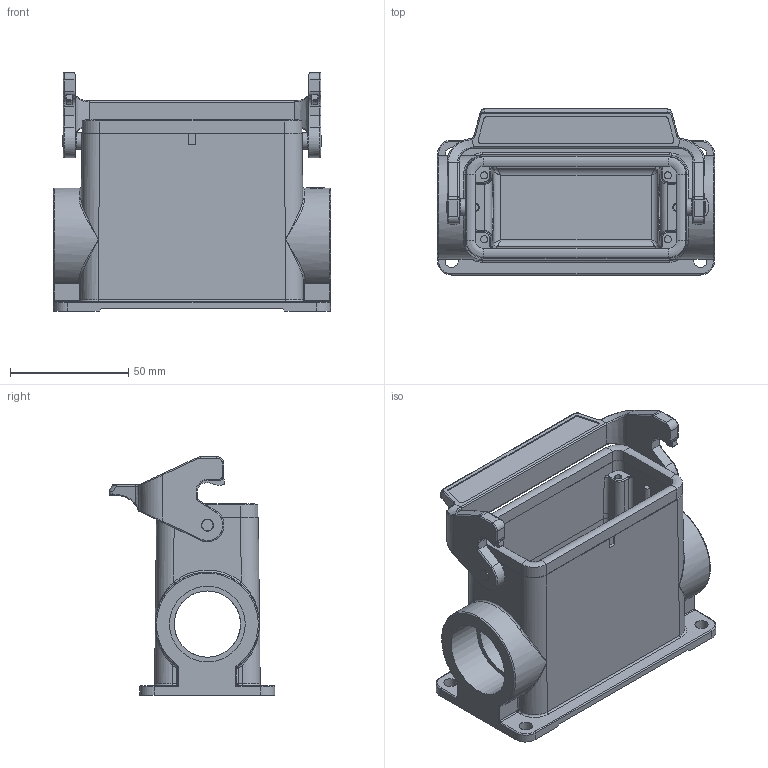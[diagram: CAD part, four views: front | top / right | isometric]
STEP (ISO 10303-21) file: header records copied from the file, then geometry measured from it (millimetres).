
FILE_DESCRIPTION(/* description */ (''),/* implementation_level */ '2;1');
FILE_NAME(/* name */ '100556390ugm000_d.stp',/* time_stamp */ '2022-03-11T19:17:30+01:00',/* author */ (''),/* organization */ (''),/* preprocessor_version */ 'ST-DEVELOPER v16.7',/* originating_system */ 'SIEMENS PLM Software NX 1911',/* authorisation */ '');
FILE_SCHEMA (('AUTOMOTIVE_DESIGN { 1 0 10303 214 3 1 1 1 }'));
Length unit declared in the file: millimetre
Products named in the file (1): 100556390ugm000_d
Bounding box: 117 x 70 x 100.6 mm (x, y, z)
Volume: 156184.7 mm3; surface area: 65073.4 mm2
Topology: 2 solids, 3 shells, 498 faces, 1265 edges, 783 vertices
Faces by surface type: cylinder 183, plane 161, bspline 128, torus 22, cone 4
Full cylindrical faces by diameter (mm): 0.77 x1, 3 x4, 4.8 x2, 5.1 x2, 5.6 x4, 7 x2, 28 x2, 32 x2
Entity records: 22185 total; most frequent: CARTESIAN_POINT 7625, ORIENTED_EDGE 2428, DIRECTION 2070, EDGE_CURVE 1216, AXIS2_PLACEMENT_3D 781, VERTEX_POINT 768, EDGE_LOOP 559, LINE 508
